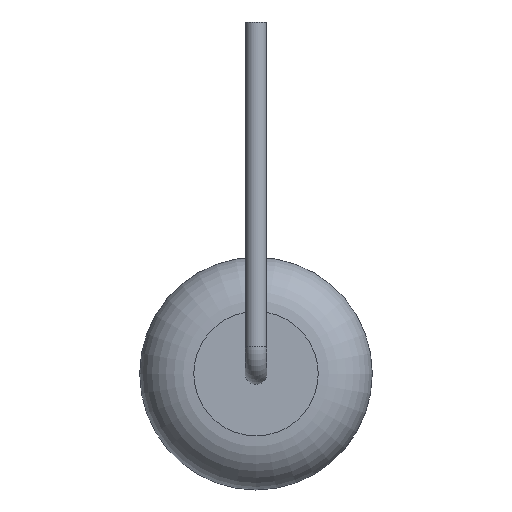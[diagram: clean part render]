
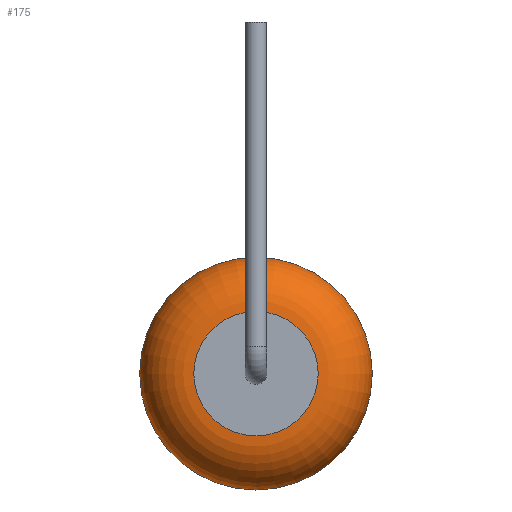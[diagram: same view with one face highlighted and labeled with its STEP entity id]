
A CAD part, left-side view. The second image highlights one B-rep face of the part: STEP entity #175.
In plain terms, the highlighted toroidal (fillet/blend) face has major radius 2.3 mm and minor radius 2 mm.
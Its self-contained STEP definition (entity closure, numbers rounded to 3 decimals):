
#175=ADVANCED_FACE('',(#344,#346),#348,.T.);
#344=FACE_OUTER_BOUND('',#345,.T.);
#345=EDGE_LOOP('',(#421));
#346=FACE_OUTER_BOUND('',#347,.T.);
#347=EDGE_LOOP('',(#422));
#348=TOROIDAL_SURFACE('',#349,2.3,2.);
#349=AXIS2_PLACEMENT_3D('',#350,#351,#352);
#350=CARTESIAN_POINT('',(-12.,0.,0.));
#351=DIRECTION('',(-1.,0.,0.));
#352=DIRECTION('',(0.,0.,1.));
#421=ORIENTED_EDGE('',*,*,#444,.T.);
#422=ORIENTED_EDGE('',*,*,#445,.F.);
#444=EDGE_CURVE('',#474,#474,#475,.T.);
#445=EDGE_CURVE('',#476,#476,#477,.T.);
#474=VERTEX_POINT('',#546);
#475=CIRCLE('',#547,4.3);
#476=VERTEX_POINT('',#551);
#477=CIRCLE('',#552,2.3);
#546=CARTESIAN_POINT('',(-12.,0.,4.3));
#547=AXIS2_PLACEMENT_3D('',#548,#549,#550);
#548=CARTESIAN_POINT('',(-12.,0.,0.));
#549=DIRECTION('',(-1.,0.,0.));
#550=DIRECTION('',(0.,0.,1.));
#551=CARTESIAN_POINT('',(-14.,0.,2.3));
#552=AXIS2_PLACEMENT_3D('',#553,#554,#555);
#553=CARTESIAN_POINT('',(-14.,0.,0.));
#554=DIRECTION('',(-1.,0.,0.));
#555=DIRECTION('',(0.,0.,1.));
